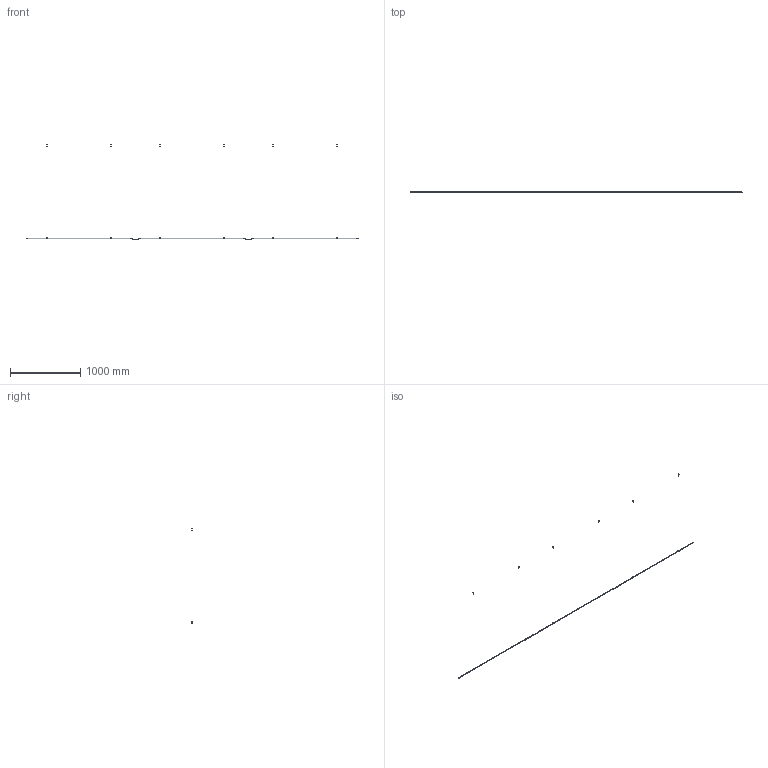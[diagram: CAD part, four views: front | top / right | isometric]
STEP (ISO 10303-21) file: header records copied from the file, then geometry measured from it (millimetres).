
FILE_DESCRIPTION(/* description */ (''),/* implementation_level */ '2;1');
FILE_NAME(/* name */ '1675',/* time_stamp */ '2021-11-18T16:34:25+01:00',/* author */ (''),/* organization */ (''),/* preprocessor_version */ 'ST-DEVELOPER v16.5',/* originating_system */ '',/* authorisation */ '');
FILE_SCHEMA (('CONFIG_CONTROL_DESIGN'));
Length unit declared in the file: millimetre
Products named in the file (1): Document
Bounding box: 4715 x 13.64 x 1348.95 mm (x, y, z)
Volume: 232669.6 mm3; surface area: 366747 mm2
Topology: 32 solids, 32 shells, 312 faces, 752 edges, 492 vertices
Faces by surface type: plane 181, cylinder 105, bspline 26
Full cylindrical faces by diameter (mm): 1 x12, 1.5 x12, 3.3 x6, 5 x6, 9 x6, 10 x12, 13 x6
Entity records: 10178 total; most frequent: CARTESIAN_POINT 4972, ORIENTED_EDGE 1504, EDGE_CURVE 752, VERTEX_POINT 504, B_SPLINE_CURVE_WITH_KNOTS 426, EDGE_LOOP 348, ADVANCED_FACE 312, FACE_OUTER_BOUND 312
